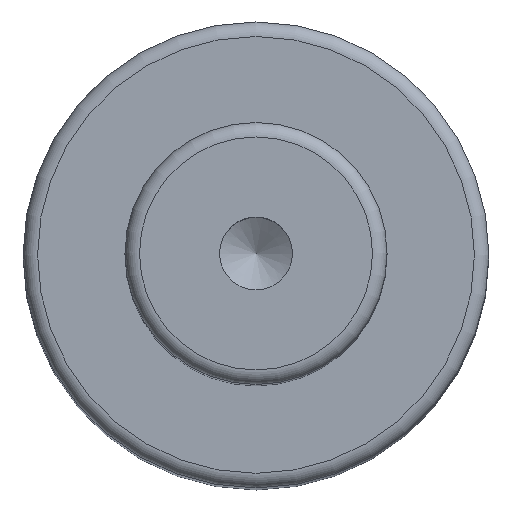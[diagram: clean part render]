
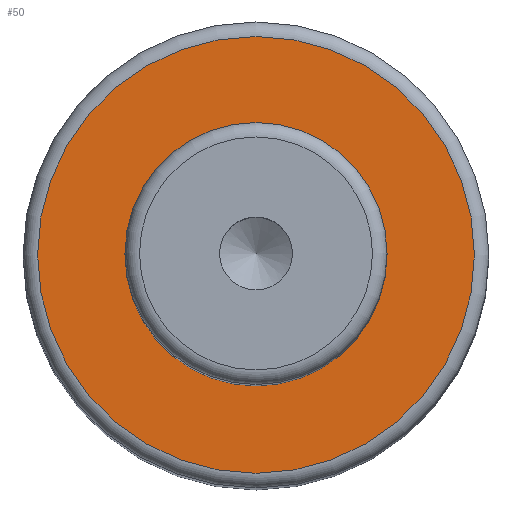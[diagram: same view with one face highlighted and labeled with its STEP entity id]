
A CAD part, top view. The second image highlights one B-rep face of the part: STEP entity #50.
In plain terms, the highlighted planar face has unit normal (0, 0, 1).
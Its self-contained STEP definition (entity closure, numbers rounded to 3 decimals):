
#40=PLANE('',#179);
#50=ADVANCED_FACE('',(#72,#73),#40,.F.);
#72=FACE_BOUND('',#96,.T.);
#73=FACE_BOUND('',#97,.T.);
#96=EDGE_LOOP('',(#118));
#97=EDGE_LOOP('',(#119));
#118=ORIENTED_EDGE('',*,*,#149,.F.);
#119=ORIENTED_EDGE('',*,*,#148,.T.);
#135=VERTEX_POINT('',#256);
#136=VERTEX_POINT('',#259);
#148=EDGE_CURVE('',#135,#135,#159,.T.);
#149=EDGE_CURVE('',#136,#136,#160,.T.);
#159=CIRCLE('',#176,9.);
#160=CIRCLE('',#178,15.);
#176=AXIS2_PLACEMENT_3D('',#255,#213,#214);
#178=AXIS2_PLACEMENT_3D('',#258,#217,#218);
#179=AXIS2_PLACEMENT_3D('',#260,#219,#220);
#213=DIRECTION('',(0.,0.,-1.));
#214=DIRECTION('',(-1.,0.,0.));
#217=DIRECTION('',(0.,0.,-1.));
#218=DIRECTION('',(-1.,0.,0.));
#219=DIRECTION('',(0.,0.,-1.));
#220=DIRECTION('',(-1.,0.,0.));
#255=CARTESIAN_POINT('',(0.,0.,85.));
#256=CARTESIAN_POINT('',(-9.,0.,85.));
#258=CARTESIAN_POINT('',(0.,0.,85.));
#259=CARTESIAN_POINT('',(-15.,0.,85.));
#260=CARTESIAN_POINT('',(9.,0.,85.));
